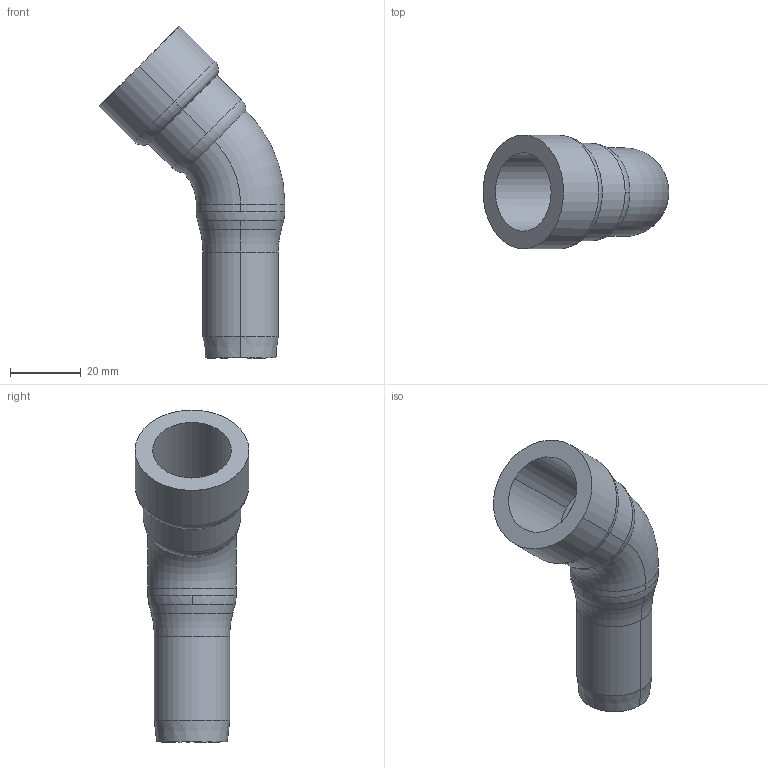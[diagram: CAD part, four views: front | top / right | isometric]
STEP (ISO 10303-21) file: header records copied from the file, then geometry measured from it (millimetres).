
FILE_DESCRIPTION(('Creo Elements/Direct Modeling STEP Export'),'2;1');
FILE_NAME('C9412_1-2.stp','2020-06-25T13:42:30',(''),(''),'PTC Creo Elements/Direct Modeling STEP processor for AP214 (Solid Model)','PTC Creo Elements/Direct Modeling 19.0C 15-Aug-2015 (C) Parametric Technology GmbH','');
FILE_SCHEMA(('AUTOMOTIVE_DESIGN { 1 0 10303 214 1 1 1 1 }'));
Length unit declared in the file: millimetre
Products named in the file (2): 9412_1-2
Assembly tree (1 placements, depth 2):
  9412_1-2
    9412_1-2
Bounding box: 52.44 x 32.1 x 93.71 mm (x, y, z)
Volume: 21249.7 mm3; surface area: 13577.8 mm2
Topology: 1 solids, 1 shells, 43 faces, 102 edges, 62 vertices
Faces by surface type: torus 16, cylinder 16, cone 8, plane 3
Entity records: 1124 total; most frequent: ORIENTED_EDGE 204, DIRECTION 192, CARTESIAN_POINT 170, EDGE_CURVE 102, AXIS2_PLACEMENT_3D 84, VERTEX_POINT 62, EDGE_LOOP 46, FACE_OUTER_BOUND 43
